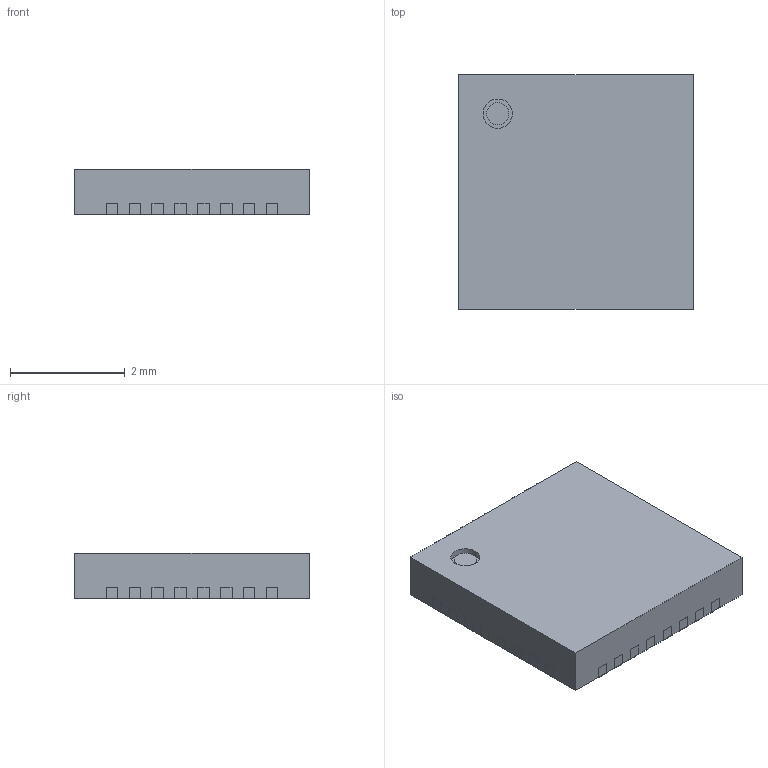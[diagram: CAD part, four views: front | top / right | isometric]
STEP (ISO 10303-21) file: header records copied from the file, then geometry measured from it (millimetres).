
FILE_DESCRIPTION (( 'STEP AP214' ), '1' );
FILE_NAME ('QFN32_4x4x0.8.STEP', '2024-09-17T08:33:41', ( '' ), ( '' ), 'SwSTEP 2.0', 'SolidWorks 2016', '' );
FILE_SCHEMA (( 'AUTOMOTIVE_DESIGN' ));
Length unit declared in the file: millimetre
Products named in the file (9): 3; QFN32_4x4x0.8; Thermal_Shape; Open CASCADE STEP translator 6.8 27.2.1; Body; Pin_Shape; Open CASCADE STEP translator 6.8 27.4.1; Open CASCADE STEP translator 7.5 49.1; 4
Assembly tree (37 placements, depth 3):
  QFN32_4x4x0.8
    Body
      Open CASCADE STEP translator 6.8 27.2.1
    Thermal_Shape
    3  x4
    Pin_Shape  x24
      Open CASCADE STEP translator 6.8 27.4.1
    4  x4
    Open CASCADE STEP translator 7.5 49.1
Bounding box: 4.1 x 4.1 x 0.8 mm (x, y, z)
Volume: 13.4 mm3; surface area: 68.6 mm2
Topology: 35 solids, 35 shells, 284 faces, 639 edges, 426 vertices
Faces by surface type: plane 280, cylinder 4
Entity records: 2241 total; most frequent: DIRECTION 283, CARTESIAN_POINT 253, ORIENTED_EDGE 198, EDGE_CURVE 99, AXIS2_PLACEMENT_3D 96, LINE 91, VECTOR 91, VERTEX_POINT 66
